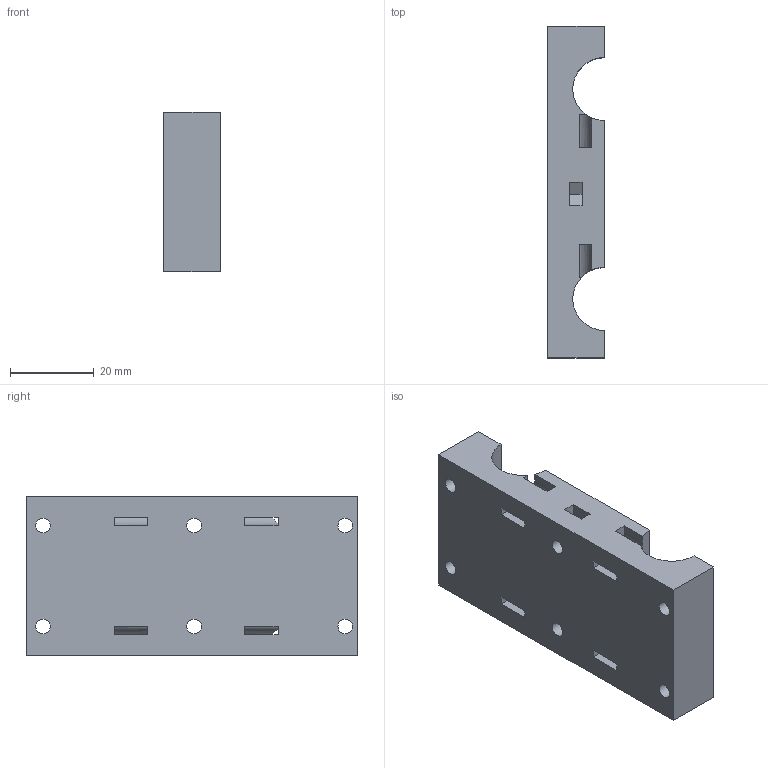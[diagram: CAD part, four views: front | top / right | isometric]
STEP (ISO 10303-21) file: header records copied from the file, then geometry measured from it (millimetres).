
FILE_DESCRIPTION(/* description */ (''),/* implementation_level */ '2;1');
FILE_NAME(/* name */ 'X Carriage Back v4.step',/* time_stamp */ '2023-03-23T06:44:12-06:00',/* author */ (''),/* organization */ (''),/* preprocessor_version */ 'ST-DEVELOPER v19.2',/* originating_system */ 'Autodesk Translation Framework v11.17.0.187',/* authorisation */ '');
FILE_SCHEMA (('AUTOMOTIVE_DESIGN { 1 0 10303 214 3 1 1 }'));
Length unit declared in the file: millimetre
Products named in the file (2): X Carriage Back; Component1
Assembly tree (1 placements, depth 2):
  X Carriage Back
    Component1
Bounding box: 13.5 x 79 x 38 mm (x, y, z)
Volume: 31608.2 mm3; surface area: 11380.6 mm2
Topology: 1 solids, 1 shells, 111 faces, 321 edges, 214 vertices
Faces by surface type: plane 65, bspline 28, cylinder 18
Full cylindrical faces by diameter (mm): 3.5 x8
Entity records: 4024 total; most frequent: CARTESIAN_POINT 1161, ORIENTED_EDGE 642, DIRECTION 473, EDGE_CURVE 321, LINE 221, VECTOR 221, VERTEX_POINT 214, EDGE_LOOP 137
